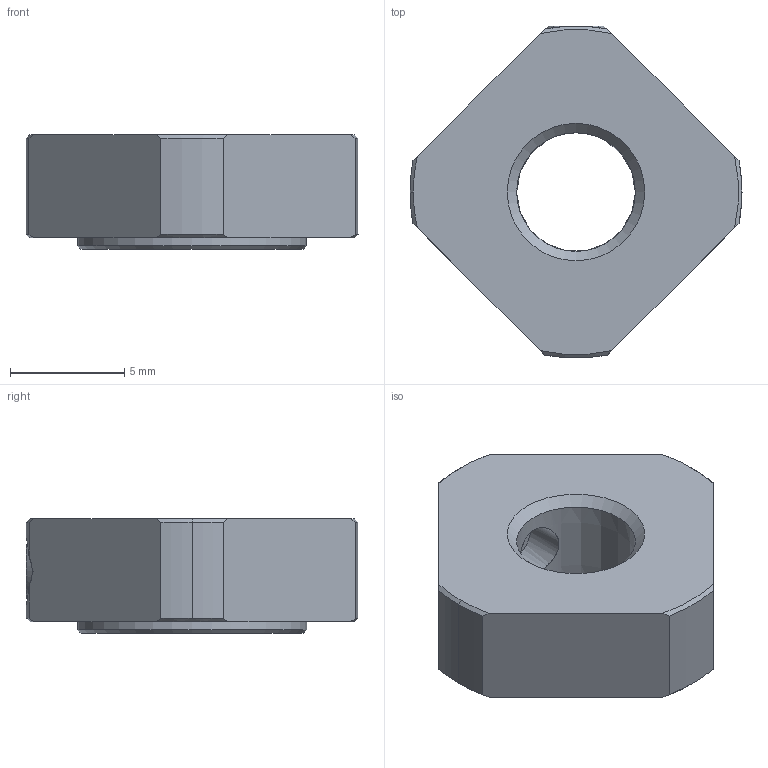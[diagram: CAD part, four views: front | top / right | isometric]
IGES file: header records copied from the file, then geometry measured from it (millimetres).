
Start section: Data from Parasolid IGES Translator 26.0.171, Copyright(c) 2006 Siemens PLM Software. All Rights Reserved.
Global section: file name: RN 6.igs; native system: By Siemens PLM Incorporated; preprocessor: XPlus GENERIC/IGES 26.0.171; author: Noname; organization: Noname; date: 20250611.074050; units: millimetre
Bounding box: 14.5 x 14.49 x 5 mm (x, y, z)
Surface area: 534.8 mm2 (no closed solid volume)
Topology: 0 solids, 0 shells, 40 faces, 212 edges, 208 vertices
Faces by surface type: revolution 24, extrusion 16
